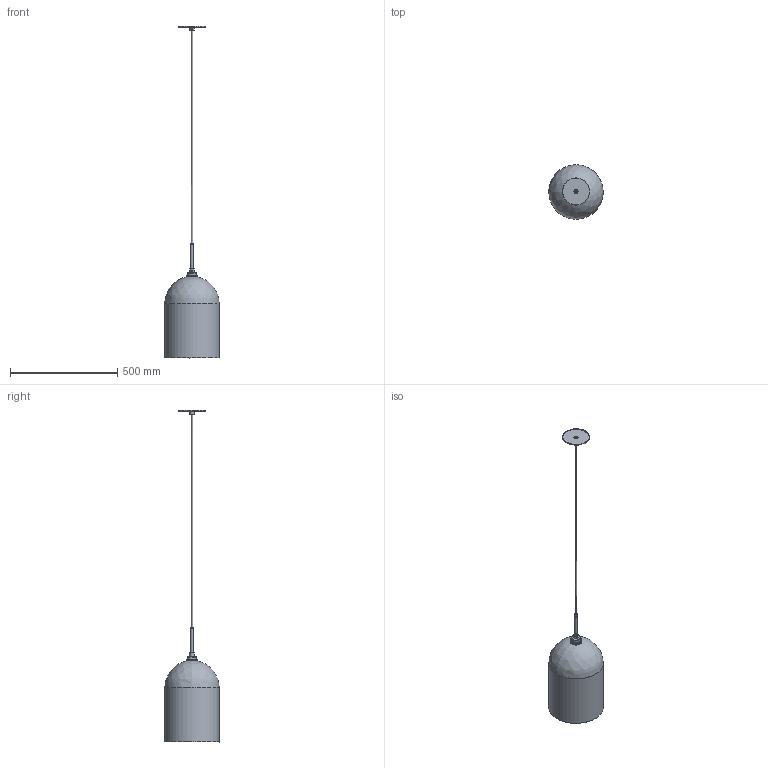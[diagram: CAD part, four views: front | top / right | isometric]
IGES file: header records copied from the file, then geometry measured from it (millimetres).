
Global section: file name: Niche - Cloche Grand Pendant; native system: unknown; preprocessor: unknown; author: unknown; organization: unknown; date: 20220622.105757; units: inch
Bounding box: 254 x 253.72 x 1550.48 mm (x, y, z)
Volume: 1200990.8 mm3; surface area: 721064.1 mm2
Topology: 12 solids, 12 shells, 164 faces, 408 edges, 274 vertices
Faces by surface type: bspline 164
